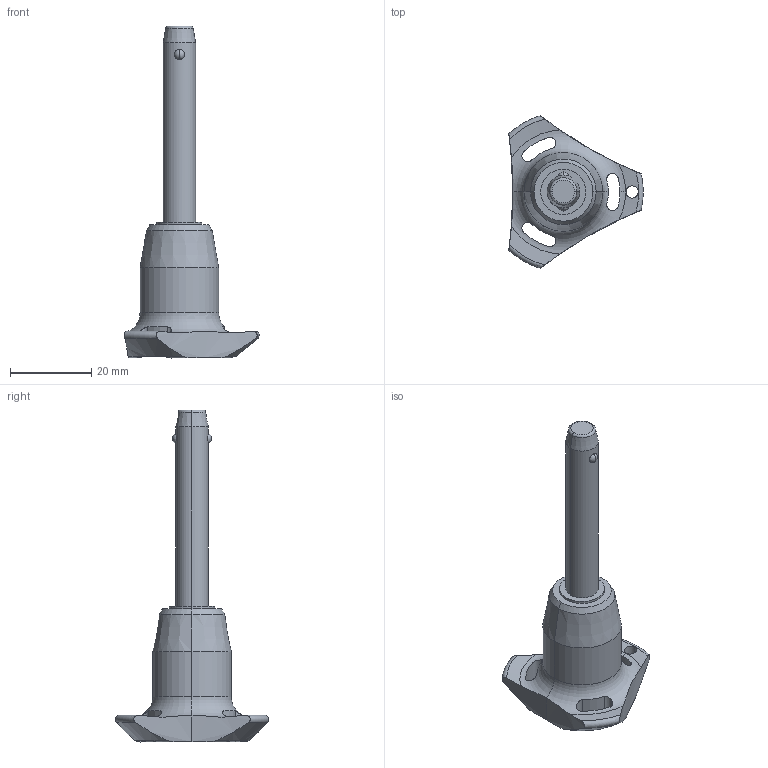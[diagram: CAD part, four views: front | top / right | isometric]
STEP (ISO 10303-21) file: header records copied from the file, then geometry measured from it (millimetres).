
FILE_DESCRIPTION (( 'STEP AP203' ), '1' );
FILE_NAME ('QR1714.M08-040-S.step', '2025-11-12T10:03:13', ( '' ), ( '' ), 'SwSTEP 2.0', 'SolidWorks 2019', '' );
FILE_SCHEMA (( 'CONFIG_CONTROL_DESIGN' ));
Length unit declared in the file: millimetre
Products named in the file (1): QR1714.M08-040-S
Bounding box: 33 x 37.51 x 81.5 mm (x, y, z)
Volume: 12660.8 mm3; surface area: 5059.9 mm2
Topology: 1 solids, 1 shells, 65 faces, 174 edges, 109 vertices
Faces by surface type: cylinder 30, cone 14, torus 11, sphere 6, plane 4
Entity records: 2746 total; most frequent: CARTESIAN_POINT 1073, ORIENTED_EDGE 348, DIRECTION 331, EDGE_CURVE 174, AXIS2_PLACEMENT_3D 147, VERTEX_POINT 109, CIRCLE 81, EDGE_LOOP 71
